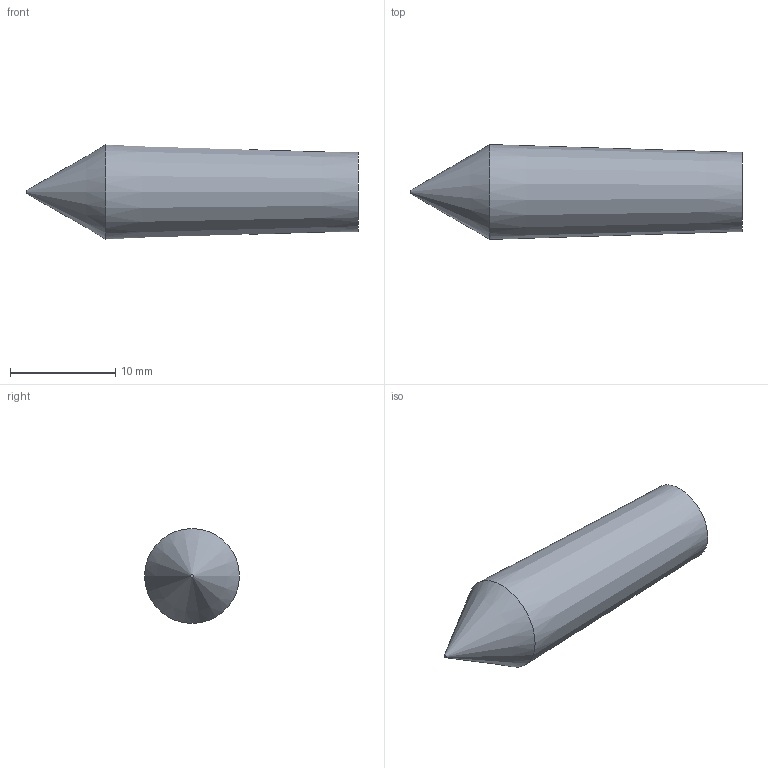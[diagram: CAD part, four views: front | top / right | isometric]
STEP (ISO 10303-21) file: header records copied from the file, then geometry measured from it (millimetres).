
FILE_DESCRIPTION(/* description */ (''),/* implementation_level */ '2;1');
FILE_NAME(/* name */ '',/* time_stamp */ '2026-08-27T17:04:00+09:00',/* author */ ('jhkim'),/* organization */ (''),/* preprocessor_version */ 'ST-DEVELOPER v20.1',/* originating_system */ 'Autodesk Inventor 2027',/* authorisation */ '');
FILE_SCHEMA (('AUTOMOTIVE_DESIGN { 1 0 10303 214 3 1 1 }'));
Length unit declared in the file: millimetre
Products named in the file (1): 센터
Bounding box: 31.5 x 9 x 9 mm (x, y, z)
Volume: 1447.9 mm3; surface area: 791.8 mm2
Topology: 1 solids, 1 shells, 4 faces, 5 edges, 3 vertices
Faces by surface type: plane 2, cone 2
Entity records: 127 total; most frequent: DIRECTION 18, CARTESIAN_POINT 13, ORIENTED_EDGE 10, AXIS2_PLACEMENT_3D 8, EDGE_CURVE 5, FACE_OUTER_BOUND 4, EDGE_LOOP 4, ADVANCED_FACE 4
